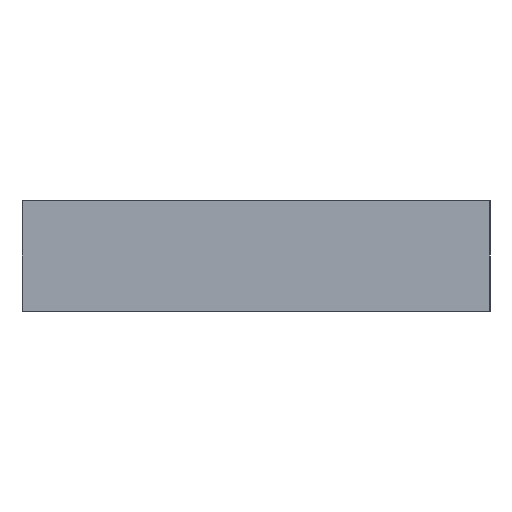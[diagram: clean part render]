
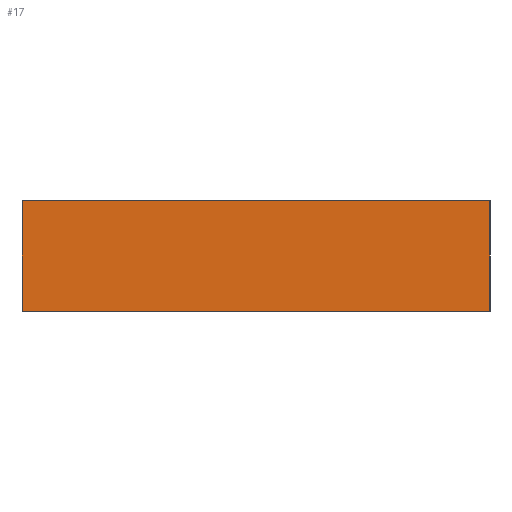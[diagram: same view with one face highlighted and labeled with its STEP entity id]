
A CAD part, left-side view. The second image highlights one B-rep face of the part: STEP entity #17.
In plain terms, the highlighted planar face has unit normal (-1, 0, 0).
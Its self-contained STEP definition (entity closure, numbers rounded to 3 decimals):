
#17 = ADVANCED_FACE('',(#18),#32,.F.);
#18 = FACE_BOUND('',#19,.F.);
#19 = EDGE_LOOP('',(#20,#55,#83,#111));
#20 = ORIENTED_EDGE('',*,*,#21,.F.);
#21 = EDGE_CURVE('',#22,#24,#26,.T.);
#22 = VERTEX_POINT('',#23);
#23 = CARTESIAN_POINT('',(-47.5,-17.,0.));
#24 = VERTEX_POINT('',#25);
#25 = CARTESIAN_POINT('',(-47.5,-17.,8.));
#26 = SURFACE_CURVE('',#27,(#31,#43),.PCURVE_S1.);
#27 = LINE('',#28,#29);
#28 = CARTESIAN_POINT('',(-47.5,-17.,0.));
#29 = VECTOR('',#30,1.);
#30 = DIRECTION('',(0.,0.,1.));
#31 = PCURVE('',#32,#37);
#32 = PLANE('',#33);
#33 = AXIS2_PLACEMENT_3D('',#34,#35,#36);
#34 = CARTESIAN_POINT('',(-47.5,-17.,0.));
#35 = DIRECTION('',(1.,0.,0.));
#36 = DIRECTION('',(0.,0.,1.));
#37 = DEFINITIONAL_REPRESENTATION('',(#38),#42);
#38 = LINE('',#39,#40);
#39 = CARTESIAN_POINT('',(0.,0.));
#40 = VECTOR('',#41,1.);
#41 = DIRECTION('',(1.,0.));
#42 = ( GEOMETRIC_REPRESENTATION_CONTEXT(2) 
PARAMETRIC_REPRESENTATION_CONTEXT() REPRESENTATION_CONTEXT('2D SPACE',''
  ) );
#43 = PCURVE('',#44,#49);
#44 = PLANE('',#45);
#45 = AXIS2_PLACEMENT_3D('',#46,#47,#48);
#46 = CARTESIAN_POINT('',(-47.5,-17.,0.));
#47 = DIRECTION('',(0.,1.,0.));
#48 = DIRECTION('',(0.,0.,1.));
#49 = DEFINITIONAL_REPRESENTATION('',(#50),#54);
#50 = LINE('',#51,#52);
#51 = CARTESIAN_POINT('',(0.,0.));
#52 = VECTOR('',#53,1.);
#53 = DIRECTION('',(1.,0.));
#54 = ( GEOMETRIC_REPRESENTATION_CONTEXT(2) 
PARAMETRIC_REPRESENTATION_CONTEXT() REPRESENTATION_CONTEXT('2D SPACE',''
  ) );
#55 = ORIENTED_EDGE('',*,*,#56,.T.);
#56 = EDGE_CURVE('',#22,#57,#59,.T.);
#57 = VERTEX_POINT('',#58);
#58 = CARTESIAN_POINT('',(-47.5,17.,0.));
#59 = SURFACE_CURVE('',#60,(#64,#71),.PCURVE_S1.);
#60 = LINE('',#61,#62);
#61 = CARTESIAN_POINT('',(-47.5,-17.,0.));
#62 = VECTOR('',#63,1.);
#63 = DIRECTION('',(0.,1.,0.));
#64 = PCURVE('',#32,#65);
#65 = DEFINITIONAL_REPRESENTATION('',(#66),#70);
#66 = LINE('',#67,#68);
#67 = CARTESIAN_POINT('',(0.,0.));
#68 = VECTOR('',#69,1.);
#69 = DIRECTION('',(0.,-1.));
#70 = ( GEOMETRIC_REPRESENTATION_CONTEXT(2) 
PARAMETRIC_REPRESENTATION_CONTEXT() REPRESENTATION_CONTEXT('2D SPACE',''
  ) );
#71 = PCURVE('',#72,#77);
#72 = PLANE('',#73);
#73 = AXIS2_PLACEMENT_3D('',#74,#75,#76);
#74 = CARTESIAN_POINT('',(-47.5,-17.,0.));
#75 = DIRECTION('',(0.,0.,1.));
#76 = DIRECTION('',(1.,0.,0.));
#77 = DEFINITIONAL_REPRESENTATION('',(#78),#82);
#78 = LINE('',#79,#80);
#79 = CARTESIAN_POINT('',(0.,0.));
#80 = VECTOR('',#81,1.);
#81 = DIRECTION('',(0.,1.));
#82 = ( GEOMETRIC_REPRESENTATION_CONTEXT(2) 
PARAMETRIC_REPRESENTATION_CONTEXT() REPRESENTATION_CONTEXT('2D SPACE',''
  ) );
#83 = ORIENTED_EDGE('',*,*,#84,.T.);
#84 = EDGE_CURVE('',#57,#85,#87,.T.);
#85 = VERTEX_POINT('',#86);
#86 = CARTESIAN_POINT('',(-47.5,17.,8.));
#87 = SURFACE_CURVE('',#88,(#92,#99),.PCURVE_S1.);
#88 = LINE('',#89,#90);
#89 = CARTESIAN_POINT('',(-47.5,17.,0.));
#90 = VECTOR('',#91,1.);
#91 = DIRECTION('',(0.,0.,1.));
#92 = PCURVE('',#32,#93);
#93 = DEFINITIONAL_REPRESENTATION('',(#94),#98);
#94 = LINE('',#95,#96);
#95 = CARTESIAN_POINT('',(0.,-34.));
#96 = VECTOR('',#97,1.);
#97 = DIRECTION('',(1.,0.));
#98 = ( GEOMETRIC_REPRESENTATION_CONTEXT(2) 
PARAMETRIC_REPRESENTATION_CONTEXT() REPRESENTATION_CONTEXT('2D SPACE',''
  ) );
#99 = PCURVE('',#100,#105);
#100 = PLANE('',#101);
#101 = AXIS2_PLACEMENT_3D('',#102,#103,#104);
#102 = CARTESIAN_POINT('',(-47.5,17.,0.));
#103 = DIRECTION('',(0.,1.,0.));
#104 = DIRECTION('',(0.,0.,1.));
#105 = DEFINITIONAL_REPRESENTATION('',(#106),#110);
#106 = LINE('',#107,#108);
#107 = CARTESIAN_POINT('',(0.,0.));
#108 = VECTOR('',#109,1.);
#109 = DIRECTION('',(1.,0.));
#110 = ( GEOMETRIC_REPRESENTATION_CONTEXT(2) 
PARAMETRIC_REPRESENTATION_CONTEXT() REPRESENTATION_CONTEXT('2D SPACE',''
  ) );
#111 = ORIENTED_EDGE('',*,*,#112,.F.);
#112 = EDGE_CURVE('',#24,#85,#113,.T.);
#113 = SURFACE_CURVE('',#114,(#118,#125),.PCURVE_S1.);
#114 = LINE('',#115,#116);
#115 = CARTESIAN_POINT('',(-47.5,-17.,8.));
#116 = VECTOR('',#117,1.);
#117 = DIRECTION('',(0.,1.,0.));
#118 = PCURVE('',#32,#119);
#119 = DEFINITIONAL_REPRESENTATION('',(#120),#124);
#120 = LINE('',#121,#122);
#121 = CARTESIAN_POINT('',(8.,0.));
#122 = VECTOR('',#123,1.);
#123 = DIRECTION('',(0.,-1.));
#124 = ( GEOMETRIC_REPRESENTATION_CONTEXT(2) 
PARAMETRIC_REPRESENTATION_CONTEXT() REPRESENTATION_CONTEXT('2D SPACE',''
  ) );
#125 = PCURVE('',#126,#131);
#126 = PLANE('',#127);
#127 = AXIS2_PLACEMENT_3D('',#128,#129,#130);
#128 = CARTESIAN_POINT('',(-47.5,-17.,8.));
#129 = DIRECTION('',(0.,0.,1.));
#130 = DIRECTION('',(1.,0.,0.));
#131 = DEFINITIONAL_REPRESENTATION('',(#132),#136);
#132 = LINE('',#133,#134);
#133 = CARTESIAN_POINT('',(0.,0.));
#134 = VECTOR('',#135,1.);
#135 = DIRECTION('',(0.,1.));
#136 = ( GEOMETRIC_REPRESENTATION_CONTEXT(2) 
PARAMETRIC_REPRESENTATION_CONTEXT() REPRESENTATION_CONTEXT('2D SPACE',''
  ) );
